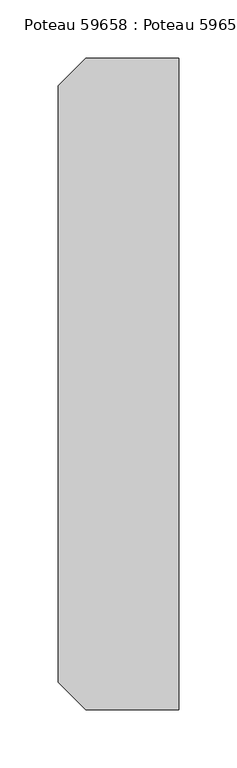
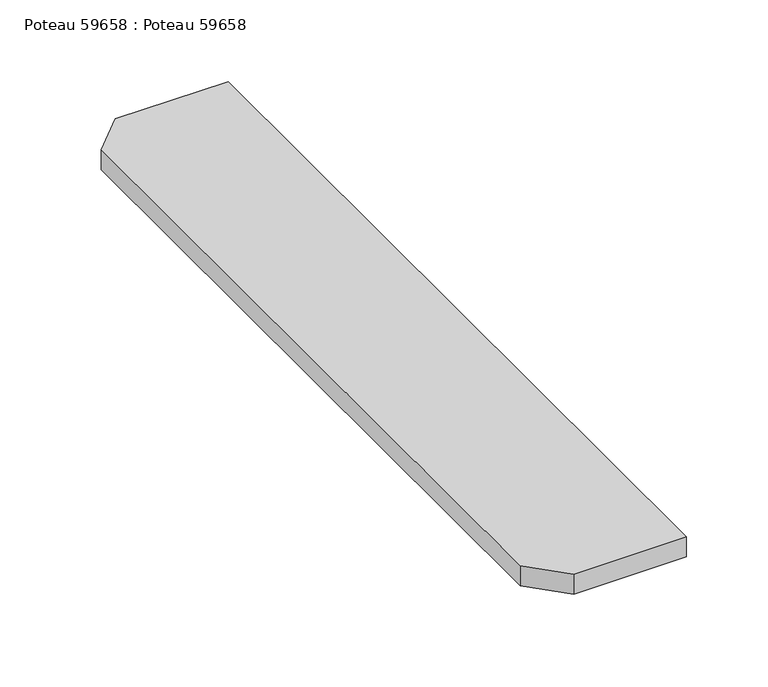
"""IFC4 building model written with IfcOpenShell, lengths in millimetres: beam geometry, Poteau 59658 : Poteau 59658."""

from ifc_helpers import new_model, si_unit, frame, origin, place, context, project, spatial, polyline, outline, extrude, source, transform, mapped, element, save


def poteau_59658_poteau_59658_1c419a73(model_context):
    return source(origin(), model_context, "Body", "SweptSolid", [
        extrude(outline(polyline([(109.9999999, -8015.0), (109.9999999, -8577.0), (29.9999999, -8577.0), (5.9999999, -8553.0), (5.9999999, -8039.0), (29.9999999, -8015.0), (109.9999999, -8015.0)])), frame((0.0, 0.0, 6830.14), z_axis=(0.0, 0.0, 1.0), x_axis=(1.0, 0.0, 0.0)), (0.0, 0.0, 1.0), 15.0),
    ])


if __name__ == "__main__":
    model = new_model("IFC4")
    model_context = context("Model", 3, world=origin())
    ifc_project = project(units=[si_unit("LENGTHUNIT", "METRE", prefix="MILLI")], contexts=[model_context])
    site = spatial("IfcSite", under=ifc_project)
    building = spatial("IfcBuilding", under=site)
    placement = place(None, origin())
    poteau_59658_poteau_59658_shape = poteau_59658_poteau_59658_1c419a73(model_context)
    element("IfcBeam", 1, ObjectType="Poteau 59658 : Poteau 59658", at=placement, inside=building, context=model_context, shape_type="MappedRepresentation", body=[
        mapped(poteau_59658_poteau_59658_shape, transform((0.0, 0.0, 0.0), x_axis=(1.0, 0.0, 0.0), y_axis=(0.0, 1.0, 0.0), z_axis=(0.0, 0.0, 1.0))),
    ])
    save(model, "model.ifc")
